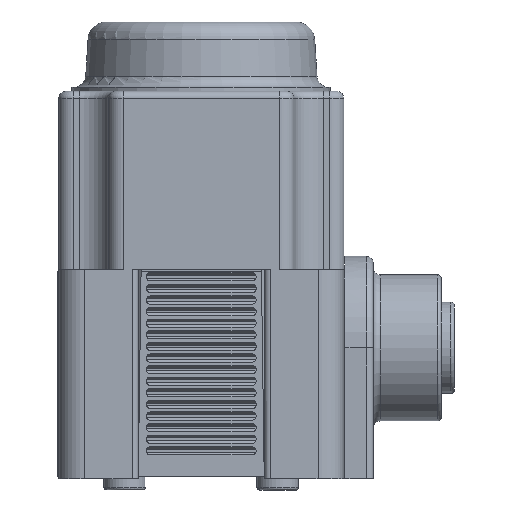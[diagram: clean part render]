
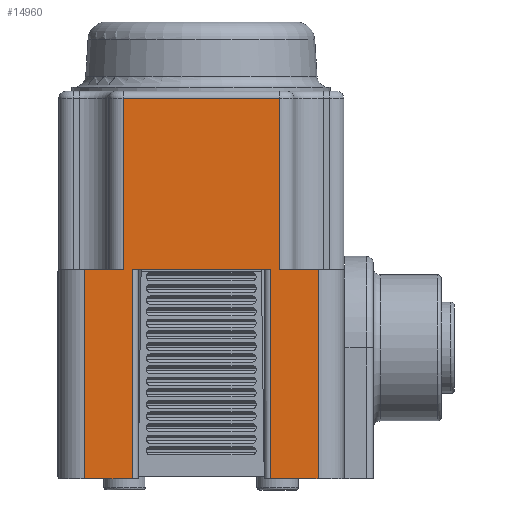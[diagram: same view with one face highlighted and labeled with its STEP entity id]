
A CAD part, left-side view. The second image highlights one B-rep face of the part: STEP entity #14960.
In plain terms, the highlighted planar face has unit normal (-1, 0, 0).
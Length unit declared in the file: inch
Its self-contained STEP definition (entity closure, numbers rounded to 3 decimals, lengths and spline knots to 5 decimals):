
#875=PLANE('',#16509);
#1661=FACE_OUTER_BOUND('',#2563,.T.);
#2563=EDGE_LOOP('',(#12925,#12926,#12927,#12928,#12929,#12930,#12931,#12932,
#12933,#12934,#12935,#12936));
#4274=LINE('',#27033,#5270);
#4287=LINE('',#27103,#5283);
#4403=LINE('',#28676,#5399);
#4420=LINE('',#28735,#5416);
#4421=LINE('',#28739,#5417);
#4424=LINE('',#28758,#5420);
#4437=LINE('',#28834,#5433);
#4438=LINE('',#28838,#5434);
#4439=LINE('',#28839,#5435);
#4440=LINE('',#28841,#5436);
#4441=LINE('',#28843,#5437);
#4442=LINE('',#28844,#5438);
#5270=VECTOR('',#19948,0.3937);
#5283=VECTOR('',#20031,0.3937);
#5399=VECTOR('',#20341,0.3937);
#5416=VECTOR('',#20412,0.3937);
#5417=VECTOR('',#20417,0.3937);
#5420=VECTOR('',#20438,0.3937);
#5433=VECTOR('',#20539,0.3937);
#5434=VECTOR('',#20544,0.3937);
#5435=VECTOR('',#20545,0.3937);
#5436=VECTOR('',#20546,0.3937);
#5437=VECTOR('',#20547,0.3937);
#5438=VECTOR('',#20548,0.3937);
#6616=VERTEX_POINT('',#27025);
#6618=VERTEX_POINT('',#27031);
#6640=VERTEX_POINT('',#27101);
#6770=VERTEX_POINT('',#28673);
#6771=VERTEX_POINT('',#28675);
#6786=VERTEX_POINT('',#28734);
#6787=VERTEX_POINT('',#28738);
#6794=VERTEX_POINT('',#28756);
#6813=VERTEX_POINT('',#28833);
#6814=VERTEX_POINT('',#28837);
#6815=VERTEX_POINT('',#28840);
#6816=VERTEX_POINT('',#28842);
#8569=EDGE_CURVE('',#6618,#6616,#4274,.T.);
#8605=EDGE_CURVE('',#6640,#6618,#4287,.T.);
#8807=EDGE_CURVE('',#6771,#6770,#4403,.T.);
#8836=EDGE_CURVE('',#6786,#6616,#4420,.T.);
#8838=EDGE_CURVE('',#6787,#6786,#4421,.T.);
#8848=EDGE_CURVE('',#6640,#6794,#4424,.T.);
#8886=EDGE_CURVE('',#6813,#6771,#4437,.T.);
#8888=EDGE_CURVE('',#6814,#6794,#4438,.T.);
#8889=EDGE_CURVE('',#6813,#6814,#4439,.T.);
#8890=EDGE_CURVE('',#6815,#6770,#4440,.T.);
#8891=EDGE_CURVE('',#6815,#6816,#4441,.T.);
#8892=EDGE_CURVE('',#6816,#6787,#4442,.T.);
#12925=ORIENTED_EDGE('',*,*,#8569,.F.);
#12926=ORIENTED_EDGE('',*,*,#8605,.F.);
#12927=ORIENTED_EDGE('',*,*,#8848,.T.);
#12928=ORIENTED_EDGE('',*,*,#8888,.F.);
#12929=ORIENTED_EDGE('',*,*,#8889,.F.);
#12930=ORIENTED_EDGE('',*,*,#8886,.T.);
#12931=ORIENTED_EDGE('',*,*,#8807,.T.);
#12932=ORIENTED_EDGE('',*,*,#8890,.F.);
#12933=ORIENTED_EDGE('',*,*,#8891,.T.);
#12934=ORIENTED_EDGE('',*,*,#8892,.T.);
#12935=ORIENTED_EDGE('',*,*,#8838,.T.);
#12936=ORIENTED_EDGE('',*,*,#8836,.T.);
#14960=ADVANCED_FACE('',(#1661),#875,.T.);
#16509=AXIS2_PLACEMENT_3D('',#28836,#20542,#20543);
#19948=DIRECTION('',(0.,-1.,0.));
#20031=DIRECTION('',(0.,0.,1.));
#20341=DIRECTION('',(0.,-1.,0.));
#20412=DIRECTION('',(0.,0.,1.));
#20417=DIRECTION('',(0.,1.,0.));
#20438=DIRECTION('',(0.,1.,0.));
#20539=DIRECTION('',(0.,0.,1.));
#20542=DIRECTION('center_axis',(-1.,0.,0.));
#20543=DIRECTION('ref_axis',(0.,0.,1.));
#20544=DIRECTION('',(0.,0.,1.));
#20545=DIRECTION('',(0.,1.,0.));
#20546=DIRECTION('',(0.,0.,1.));
#20547=DIRECTION('',(0.,-1.,0.));
#20548=DIRECTION('',(0.,0.,1.));
#27025=CARTESIAN_POINT('',(-0.98072,-0.2809,0.6733));
#27031=CARTESIAN_POINT('',(-0.98072,0.3871,0.6733));
#27033=CARTESIAN_POINT('',(-0.98072,0.3871,0.6733));
#27101=CARTESIAN_POINT('',(-0.98072,0.3871,-0.0587));
#27103=CARTESIAN_POINT('',(-0.98072,0.3871,-0.0587));
#28673=CARTESIAN_POINT('',(-0.98072,-0.2409,-0.0587));
#28675=CARTESIAN_POINT('',(-0.98072,0.3471,-0.0587));
#28676=CARTESIAN_POINT('',(-0.98072,0.3471,-0.0587));
#28734=CARTESIAN_POINT('',(-0.98072,-0.2809,-0.0587));
#28735=CARTESIAN_POINT('',(-0.98072,-0.2809,-0.0587));
#28738=CARTESIAN_POINT('',(-0.98072,-0.4459,-0.0587));
#28739=CARTESIAN_POINT('',(-0.98072,-0.4459,-0.0587));
#28756=CARTESIAN_POINT('',(-0.98072,0.5521,-0.0587));
#28758=CARTESIAN_POINT('',(-0.98072,0.3871,-0.0587));
#28833=CARTESIAN_POINT('',(-0.98072,0.3471,-0.9527));
#28834=CARTESIAN_POINT('',(-0.98072,0.3471,-0.9527));
#28836=CARTESIAN_POINT('Origin',(-0.98072,-0.44629,
-0.1397));
#28837=CARTESIAN_POINT('',(-0.98072,0.5521,-0.9527));
#28838=CARTESIAN_POINT('',(-0.98072,0.5521,-0.9527));
#28839=CARTESIAN_POINT('',(-0.98072,0.3471,-0.9527));
#28840=CARTESIAN_POINT('',(-0.98072,-0.2409,-0.9527));
#28841=CARTESIAN_POINT('',(-0.98072,-0.2409,-0.9527));
#28842=CARTESIAN_POINT('',(-0.98072,-0.4459,-0.9527));
#28843=CARTESIAN_POINT('',(-0.98072,-0.2409,-0.9527));
#28844=CARTESIAN_POINT('',(-0.98072,-0.4459,-0.9527));
